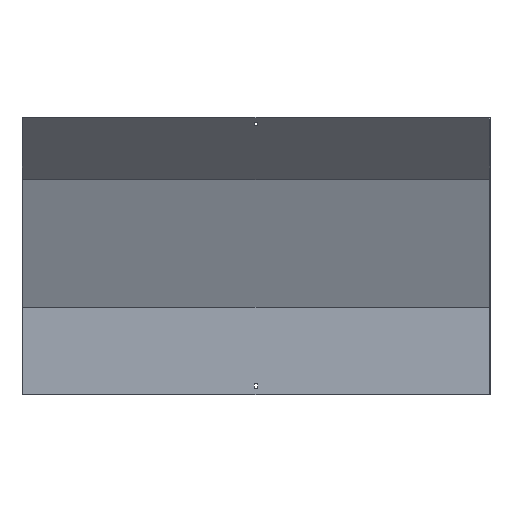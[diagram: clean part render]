
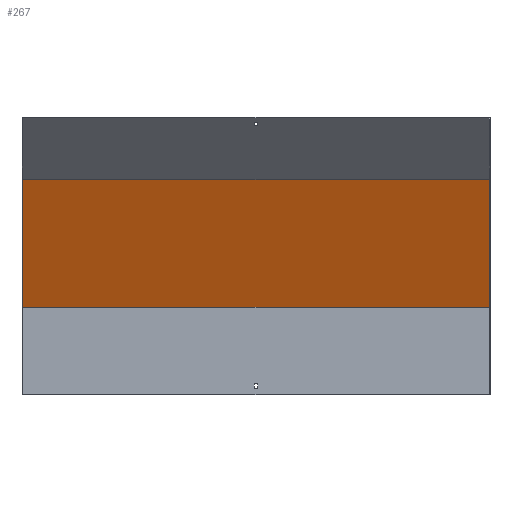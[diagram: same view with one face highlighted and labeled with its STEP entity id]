
A CAD part, front view. The second image highlights one B-rep face of the part: STEP entity #267.
In plain terms, the highlighted planar face has unit normal (0, -0.924, -0.383).
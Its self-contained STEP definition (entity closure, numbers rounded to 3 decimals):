
#57 = CARTESIAN_POINT ( 'NONE',  ( 451.5, 17.092, 172.08 ) ) ;
#115 = VECTOR ( 'NONE', #761, 1000. ) ;
#117 = DIRECTION ( 'NONE',  ( 0., 0.383, -0.924 ) ) ;
#122 = VERTEX_POINT ( 'NONE', #711 ) ;
#150 = EDGE_CURVE ( 'NONE', #122, #209, #622, .T. ) ;
#209 = VERTEX_POINT ( 'NONE', #564 ) ;
#228 = DIRECTION ( 'NONE',  ( 0., -0.383, 0.924 ) ) ;
#249 = LINE ( 'NONE', #327, #539 ) ;
#251 = DIRECTION ( 'NONE',  ( 0., -0.924, -0.383 ) ) ;
#267 = ADVANCED_FACE ( 'NONE', ( #599 ), #378, .T. ) ;
#292 = LINE ( 'NONE', #787, #853 ) ;
#297 = CARTESIAN_POINT ( 'NONE',  ( 451.5, 18.5, 168.68 ) ) ;
#327 = CARTESIAN_POINT ( 'NONE',  ( 451.5, -83.431, 414.764 ) ) ;
#378 = PLANE ( 'NONE',  #699 ) ;
#392 = EDGE_CURVE ( 'NONE', #122, #663, #568, .T. ) ;
#436 = ORIENTED_EDGE ( 'NONE', *, *, #150, .T. ) ;
#453 = CARTESIAN_POINT ( 'NONE',  ( -450., -83.431, 414.764 ) ) ;
#455 = VERTEX_POINT ( 'NONE', #453 ) ;
#469 = EDGE_CURVE ( 'NONE', #209, #455, #249, .T. ) ;
#514 = ORIENTED_EDGE ( 'NONE', *, *, #469, .T. ) ;
#533 = ORIENTED_EDGE ( 'NONE', *, *, #822, .F. ) ;
#535 = EDGE_LOOP ( 'NONE', ( #533, #687, #436, #514 ) ) ;
#539 = VECTOR ( 'NONE', #725, 1000. ) ;
#564 = CARTESIAN_POINT ( 'NONE',  ( 450., -83.431, 414.764 ) ) ;
#568 = LINE ( 'NONE', #297, #115 ) ;
#571 = CARTESIAN_POINT ( 'NONE',  ( 450., 75.428, 31.243 ) ) ;
#572 = CARTESIAN_POINT ( 'NONE',  ( -450., 18.5, 168.68 ) ) ;
#599 = FACE_OUTER_BOUND ( 'NONE', #535, .T. ) ;
#622 = LINE ( 'NONE', #571, #642 ) ;
#642 = VECTOR ( 'NONE', #228, 1000. ) ;
#663 = VERTEX_POINT ( 'NONE', #572 ) ;
#687 = ORIENTED_EDGE ( 'NONE', *, *, #392, .F. ) ;
#699 = AXIS2_PLACEMENT_3D ( 'NONE', #57, #251, #117 ) ;
#711 = CARTESIAN_POINT ( 'NONE',  ( 450., 18.5, 168.68 ) ) ;
#725 = DIRECTION ( 'NONE',  ( -1., 0., 0. ) ) ;
#761 = DIRECTION ( 'NONE',  ( -1., 0., 0. ) ) ;
#785 = DIRECTION ( 'NONE',  ( 0., -0.383, 0.924 ) ) ;
#787 = CARTESIAN_POINT ( 'NONE',  ( -450., 75.428, 31.243 ) ) ;
#822 = EDGE_CURVE ( 'NONE', #663, #455, #292, .T. ) ;
#853 = VECTOR ( 'NONE', #785, 1000. ) ;
